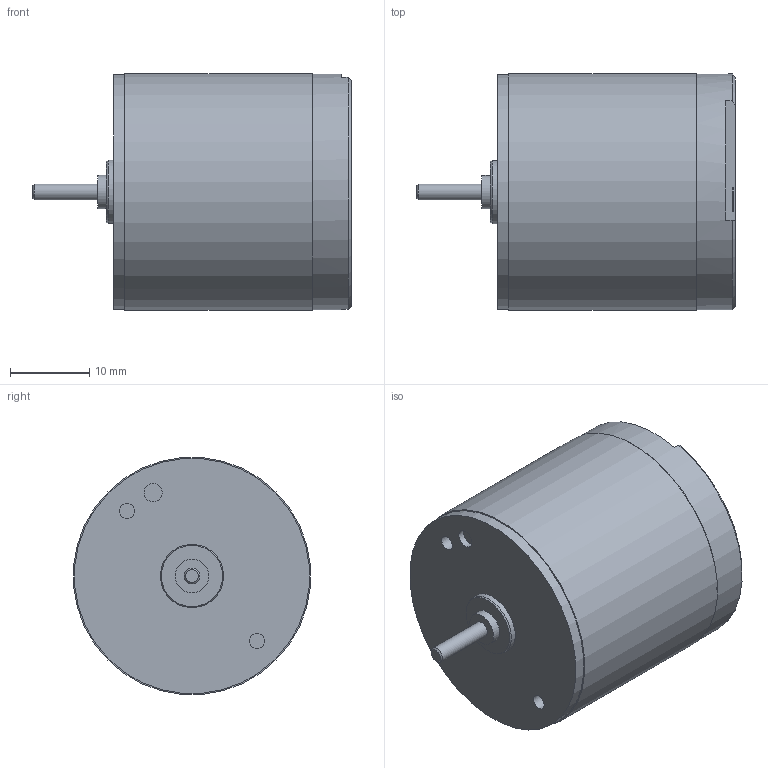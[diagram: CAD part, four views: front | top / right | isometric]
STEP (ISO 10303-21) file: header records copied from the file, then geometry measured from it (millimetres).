
FILE_DESCRIPTION(('Bauteilbeschreibung','HiCAD-Model','HiCAD-STEP-TRANSLATION','Bauteilbeschreibung'),'2;1');
FILE_NAME('C:/1-STEP-DATEI/05_089.STP','2005-02-02T14:33:25+00:00',('Konstrukteur'),('Konstrukteur Firma GmbH'),'HiCAD2 V1102 STEP 20.9.2001','HiCAD2 V1102','confidential');
FILE_SCHEMA(('AUTOMOTIVE_DESIGN { 1 2 10303 214 0 1 1 1 }'));
Length unit declared in the file: millimetre
Products named in the file (2): MOTOR; MOTOR0
Assembly tree (1 placements, depth 2):
  MOTOR
    MOTOR0
Bounding box: 40.2 x 29.89 x 29.89 mm (x, y, z)
Volume: 21025.1 mm3; surface area: 4477.8 mm2
Topology: 1 solids, 1 shells, 59 faces, 132 edges, 89 vertices
Faces by surface type: plane 42, cylinder 13, cone 4
Full cylindrical faces by diameter (mm): 1.9 x2, 2 x1, 2.3 x1, 4.2 x1, 8 x1, 29.7 x1, 29.8 x1, 30 x1
Entity records: 2644 total; most frequent: CARTESIAN_POINT 283, DIRECTION 266, ORIENTED_EDGE 230, COLOUR_RGB 175, PRESENTATION_STYLE_ASSIGNMENT 175, OVER_RIDING_STYLED_ITEM 174, CURVE_STYLE 115, DRAUGHTING_PRE_DEFINED_CURVE_FONT 115
